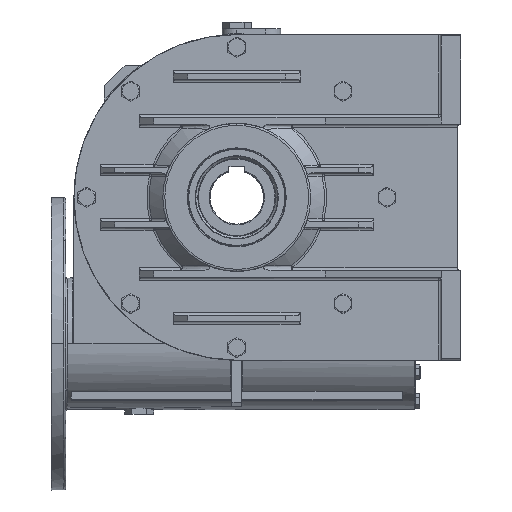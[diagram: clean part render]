
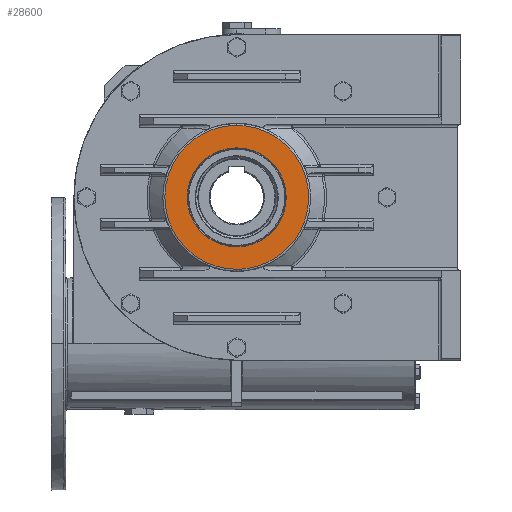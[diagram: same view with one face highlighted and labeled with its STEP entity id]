
A CAD part, top view. The second image highlights one B-rep face of the part: STEP entity #28600.
In plain terms, the highlighted planar face has unit normal (0, 0, 1).
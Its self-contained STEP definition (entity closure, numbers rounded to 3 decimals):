
#2749 = EDGE_CURVE ( 'NONE', #2750, #2828, #9496, .T. ) ;
#2750 = VERTEX_POINT ( 'NONE', #9307 ) ;
#2828 = VERTEX_POINT ( 'NONE', #11134 ) ;
#9307 = CARTESIAN_POINT ( 'NONE',  ( 0., 99.272, 98.65 ) ) ;
#9308 = DIRECTION ( 'NONE',  ( 0., -1., 0. ) ) ;
#9309 = DIRECTION ( 'NONE',  ( 0., 0., -1. ) ) ;
#9310 = AXIS2_PLACEMENT_3D ( 'NONE', #9494, #9309, #9308 ) ;
#9494 = CARTESIAN_POINT ( 'NONE',  ( 0., 150., 98.65 ) ) ;
#9496 = CIRCLE ( 'NONE', #9310, 50.728 ) ;
#11134 = CARTESIAN_POINT ( 'NONE',  ( 0., 200.728, 98.65 ) ) ;
#14192 = EDGE_CURVE ( 'NONE', #35347, #35341, #61491, .T. ) ;
#24048 = CARTESIAN_POINT ( 'NONE',  ( -37.5, 150., 98.65 ) ) ;
#24050 = AXIS2_PLACEMENT_3D ( 'NONE', #24048, #24137, #24136 ) ;
#24054 = PLANE ( 'NONE',  #24050 ) ;
#24060 = FACE_BOUND ( 'NONE', #28604, .T. ) ;
#24061 = FACE_OUTER_BOUND ( 'NONE', #28601, .T. ) ;
#24118 = DIRECTION ( 'NONE',  ( 0., -1., 0. ) ) ;
#24121 = DIRECTION ( 'NONE',  ( 0., 0., -1. ) ) ;
#24124 = CARTESIAN_POINT ( 'NONE',  ( 0., 150., 98.65 ) ) ;
#24125 = AXIS2_PLACEMENT_3D ( 'NONE', #24124, #24121, #24118 ) ;
#24126 = CIRCLE ( 'NONE', #24125, 50.728 ) ;
#24136 = DIRECTION ( 'NONE',  ( 0., -1., 0. ) ) ;
#24137 = DIRECTION ( 'NONE',  ( 0., 0., 1. ) ) ;
#28600 = ADVANCED_FACE ( 'NONE', ( #24061, #24060 ), #24054, .T. ) ;
#28601 = EDGE_LOOP ( 'NONE', ( #28602, #28603 ) ) ;
#28602 = ORIENTED_EDGE ( 'NONE', *, *, #14192, .F. ) ;
#28603 = ORIENTED_EDGE ( 'NONE', *, *, #35345, .F. ) ;
#28604 = EDGE_LOOP ( 'NONE', ( #28605, #28606 ) ) ;
#28605 = ORIENTED_EDGE ( 'NONE', *, *, #2749, .T. ) ;
#28606 = ORIENTED_EDGE ( 'NONE', *, *, #28607, .T. ) ;
#28607 = EDGE_CURVE ( 'NONE', #2828, #2750, #24126, .T. ) ;
#35341 = VERTEX_POINT ( 'NONE', #45390 ) ;
#35345 = EDGE_CURVE ( 'NONE', #35341, #35347, #45374, .T. ) ;
#35347 = VERTEX_POINT ( 'NONE', #45385 ) ;
#45349 = CARTESIAN_POINT ( 'NONE',  ( 0., 76.243, 98.65 ) ) ;
#45351 = CARTESIAN_POINT ( 'NONE',  ( 147.515, 76.243, 98.65 ) ) ;
#45353 = CARTESIAN_POINT ( 'NONE',  ( 147.515, 223.757, 98.65 ) ) ;
#45356 = CARTESIAN_POINT ( 'NONE',  ( 0., 223.757, 98.65 ) ) ;
#45374 =( BOUNDED_CURVE ( )  B_SPLINE_CURVE ( 3, ( #45356, #45353, #45351, #45349 ),
 .UNSPECIFIED., .F., .T. ) 
 B_SPLINE_CURVE_WITH_KNOTS ( ( 4, 4 ),
 ( 0.25, 0.75 ),
 .UNSPECIFIED. ) 
 CURVE ( )  GEOMETRIC_REPRESENTATION_ITEM ( )  RATIONAL_B_SPLINE_CURVE ( ( 1., 0.333, 0.333, 1. ) ) 
 REPRESENTATION_ITEM ( '' )  );
#45385 = CARTESIAN_POINT ( 'NONE',  ( 0., 76.243, 98.65 ) ) ;
#45390 = CARTESIAN_POINT ( 'NONE',  ( 0., 223.757, 98.65 ) ) ;
#61487 = CARTESIAN_POINT ( 'NONE',  ( 0., 223.757, 98.65 ) ) ;
#61488 = CARTESIAN_POINT ( 'NONE',  ( -147.515, 223.757, 98.65 ) ) ;
#61489 = CARTESIAN_POINT ( 'NONE',  ( -147.515, 76.243, 98.65 ) ) ;
#61490 = CARTESIAN_POINT ( 'NONE',  ( 0., 76.243, 98.65 ) ) ;
#61491 =( BOUNDED_CURVE ( )  B_SPLINE_CURVE ( 3, ( #61490, #61489, #61488, #61487 ),
 .UNSPECIFIED., .F., .T. ) 
 B_SPLINE_CURVE_WITH_KNOTS ( ( 4, 4 ),
 ( 0.75, 1.25 ),
 .UNSPECIFIED. ) 
 CURVE ( )  GEOMETRIC_REPRESENTATION_ITEM ( )  RATIONAL_B_SPLINE_CURVE ( ( 1., 0.333, 0.333, 1. ) ) 
 REPRESENTATION_ITEM ( '' )  );
